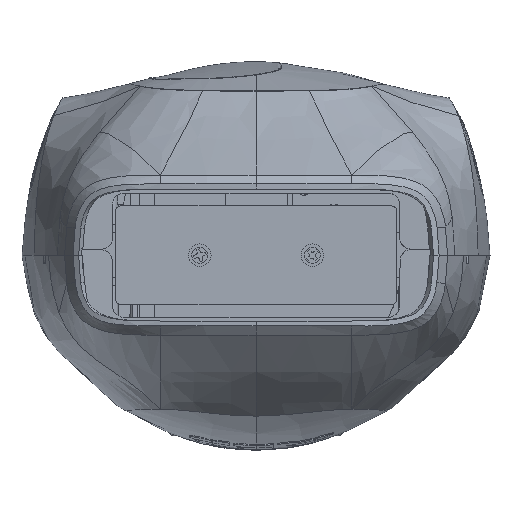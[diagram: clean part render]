
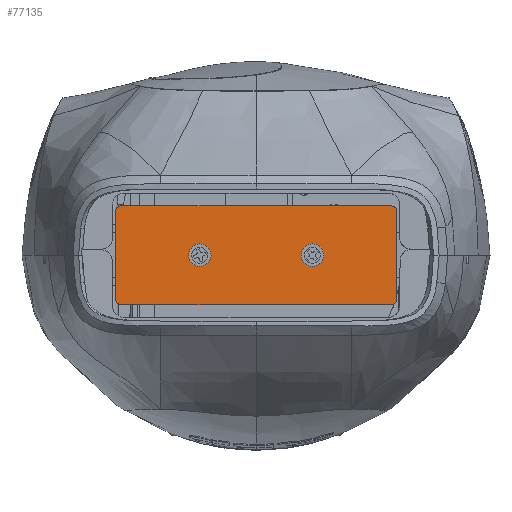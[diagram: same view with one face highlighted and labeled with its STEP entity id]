
A CAD part, top view. The second image highlights one B-rep face of the part: STEP entity #77135.
In plain terms, the highlighted planar face has unit normal (0, 0, 1).
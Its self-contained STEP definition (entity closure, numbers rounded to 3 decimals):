
#27 = CARTESIAN_POINT ( 'NONE',  ( 8.6, 0., 80.7 ) ) ;
#6572 = CARTESIAN_POINT ( 'NONE',  ( 24., 7.75, 80.7 ) ) ;
#6573 = DIRECTION ( 'NONE',  ( 0., 0., -1. ) ) ;
#6574 = DIRECTION ( 'NONE',  ( 1., 0., 0. ) ) ;
#8626 = CIRCLE ( 'NONE', #61493, 1. ) ;
#9874 = CIRCLE ( 'NONE', #61566, 1. ) ;
#9891 = LINE ( 'NONE', #13349, #9900 ) ;
#9900 = VECTOR ( 'NONE', #13351, 1000. ) ;
#10212 = CIRCLE ( 'NONE', #61592, 1.4 ) ;
#10911 = CIRCLE ( 'NONE', #61668, 1.4 ) ;
#13349 = CARTESIAN_POINT ( 'NONE',  ( -25., 8.75, 80.7 ) ) ;
#13351 = DIRECTION ( 'NONE',  ( 0., -1., 0. ) ) ;
#13354 = CARTESIAN_POINT ( 'NONE',  ( -24., -7.75, 80.7 ) ) ;
#13355 = DIRECTION ( 'NONE',  ( 0., 0., -1. ) ) ;
#13356 = DIRECTION ( 'NONE',  ( 1., 0., 0. ) ) ;
#13683 = CARTESIAN_POINT ( 'NONE',  ( -10., 0., 80.7 ) ) ;
#13685 = DIRECTION ( 'NONE',  ( 0., 0., -1. ) ) ;
#13686 = DIRECTION ( 'NONE',  ( 1., 0., 0. ) ) ;
#14163 = ORIENTED_EDGE ( 'NONE', *, *, #103868, .F. ) ;
#14165 = VERTEX_POINT ( 'NONE', #27 ) ;
#14186 = VERTEX_POINT ( 'NONE', #132474 ) ;
#14219 = VERTEX_POINT ( 'NONE', #132511 ) ;
#14319 = VERTEX_POINT ( 'NONE', #132705 ) ;
#14323 = ORIENTED_EDGE ( 'NONE', *, *, #102587, .F. ) ;
#14325 = ORIENTED_EDGE ( 'NONE', *, *, #103864, .T. ) ;
#14327 = ORIENTED_EDGE ( 'NONE', *, *, #103860, .F. ) ;
#14334 = ORIENTED_EDGE ( 'NONE', *, *, #103853, .T. ) ;
#14335 = ORIENTED_EDGE ( 'NONE', *, *, #103169, .T. ) ;
#14341 = ORIENTED_EDGE ( 'NONE', *, *, #103672, .T. ) ;
#14529 = VERTEX_POINT ( 'NONE', #46747 ) ;
#14539 = VERTEX_POINT ( 'NONE', #46770 ) ;
#14544 = VERTEX_POINT ( 'NONE', #46755 ) ;
#14673 = ORIENTED_EDGE ( 'NONE', *, *, #103861, .T. ) ;
#14680 = ORIENTED_EDGE ( 'NONE', *, *, #103319, .T. ) ;
#14681 = ORIENTED_EDGE ( 'NONE', *, *, #103859, .T. ) ;
#14730 = ORIENTED_EDGE ( 'NONE', *, *, #103857, .T. ) ;
#14807 = VERTEX_POINT ( 'NONE', #46888 ) ;
#14842 = VERTEX_POINT ( 'NONE', #46883 ) ;
#14907 = VERTEX_POINT ( 'NONE', #46912 ) ;
#14910 = VERTEX_POINT ( 'NONE', #46905 ) ;
#14964 = ORIENTED_EDGE ( 'NONE', *, *, #103171, .F. ) ;
#14984 = VERTEX_POINT ( 'NONE', #46943 ) ;
#25616 = CARTESIAN_POINT ( 'NONE',  ( 10., 0., 80.7 ) ) ;
#25617 = DIRECTION ( 'NONE',  ( 0., 0., -1. ) ) ;
#25618 = DIRECTION ( 'NONE',  ( 1., 0., 0. ) ) ;
#29020 = CARTESIAN_POINT ( 'NONE',  ( -10., 0., 80.7 ) ) ;
#29022 = DIRECTION ( 'NONE',  ( 0., 0., -1. ) ) ;
#29023 = DIRECTION ( 'NONE',  ( 1., 0., 0. ) ) ;
#29042 = CARTESIAN_POINT ( 'NONE',  ( 25., 8.75, 80.7 ) ) ;
#29045 = DIRECTION ( 'NONE',  ( 0., 1., 0. ) ) ;
#29047 = CARTESIAN_POINT ( 'NONE',  ( 10., 0., 80.7 ) ) ;
#29049 = DIRECTION ( 'NONE',  ( 0., 0., -1. ) ) ;
#29051 = DIRECTION ( 'NONE',  ( 1., 0., 0. ) ) ;
#29054 = CARTESIAN_POINT ( 'NONE',  ( 25., -8.75, 80.7 ) ) ;
#29057 = DIRECTION ( 'NONE',  ( 1., 0., 0. ) ) ;
#29065 = CARTESIAN_POINT ( 'NONE',  ( 24., -7.75, 80.7 ) ) ;
#29067 = DIRECTION ( 'NONE',  ( 0., 0., -1. ) ) ;
#29069 = DIRECTION ( 'NONE',  ( 1., 0., 0. ) ) ;
#29082 = CARTESIAN_POINT ( 'NONE',  ( 25., 8.75, 80.7 ) ) ;
#29085 = DIRECTION ( 'NONE',  ( -1., 0., 0. ) ) ;
#29108 = CARTESIAN_POINT ( 'NONE',  ( -24., 7.75, 80.7 ) ) ;
#29110 = DIRECTION ( 'NONE',  ( 0., 0., -1. ) ) ;
#29112 = DIRECTION ( 'NONE',  ( 1., 0., 0. ) ) ;
#29425 = CIRCLE ( 'NONE', #61706, 1.4 ) ;
#29433 = CIRCLE ( 'NONE', #61707, 1.4 ) ;
#29436 = LINE ( 'NONE', #29054, #29439 ) ;
#29438 = CIRCLE ( 'NONE', #61708, 1. ) ;
#29439 = VECTOR ( 'NONE', #29057, 1000. ) ;
#29440 = LINE ( 'NONE', #29042, #29442 ) ;
#29442 = VECTOR ( 'NONE', #29045, 1000. ) ;
#29445 = LINE ( 'NONE', #29082, #29448 ) ;
#29448 = VECTOR ( 'NONE', #29085, 1000. ) ;
#29453 = CIRCLE ( 'NONE', #61709, 1. ) ;
#35796 = EDGE_LOOP ( 'NONE', ( #14335, #14964, #14681, #14327, #14673, #14323, #14325, #14163 ) ) ;
#36446 = EDGE_LOOP ( 'NONE', ( #14341, #14730 ) ) ;
#36482 = EDGE_LOOP ( 'NONE', ( #14334, #14680 ) ) ;
#46747 = CARTESIAN_POINT ( 'NONE',  ( 25., 7.75, 80.7 ) ) ;
#46755 = CARTESIAN_POINT ( 'NONE',  ( -25., -7.75, 80.7 ) ) ;
#46770 = CARTESIAN_POINT ( 'NONE',  ( -8.6, 0., 80.7 ) ) ;
#46883 = CARTESIAN_POINT ( 'NONE',  ( -25., 7.75, 80.7 ) ) ;
#46888 = CARTESIAN_POINT ( 'NONE',  ( 24., -8.75, 80.7 ) ) ;
#46905 = CARTESIAN_POINT ( 'NONE',  ( -24., -8.75, 80.7 ) ) ;
#46912 = CARTESIAN_POINT ( 'NONE',  ( -24., 8.75, 80.7 ) ) ;
#46943 = CARTESIAN_POINT ( 'NONE',  ( 24., 8.75, 80.7 ) ) ;
#57437 = AXIS2_PLACEMENT_3D ( 'NONE', #83331, #83320, #83342 ) ;
#61493 = AXIS2_PLACEMENT_3D ( 'NONE', #6572, #6573, #6574 ) ;
#61566 = AXIS2_PLACEMENT_3D ( 'NONE', #13354, #13355, #13356 ) ;
#61592 = AXIS2_PLACEMENT_3D ( 'NONE', #13683, #13685, #13686 ) ;
#61668 = AXIS2_PLACEMENT_3D ( 'NONE', #25616, #25617, #25618 ) ;
#61706 = AXIS2_PLACEMENT_3D ( 'NONE', #29020, #29022, #29023 ) ;
#61707 = AXIS2_PLACEMENT_3D ( 'NONE', #29047, #29049, #29051 ) ;
#61708 = AXIS2_PLACEMENT_3D ( 'NONE', #29065, #29067, #29069 ) ;
#61709 = AXIS2_PLACEMENT_3D ( 'NONE', #29108, #29110, #29112 ) ;
#77135 = ADVANCED_FACE ( 'NONE', ( #92003, #92011, #91984 ), #83337, .F. ) ;
#83320 = DIRECTION ( 'NONE',  ( 0., 0., -1. ) ) ;
#83331 = CARTESIAN_POINT ( 'NONE',  ( -25., -8.75, 80.7 ) ) ;
#83337 = PLANE ( 'NONE',  #57437 ) ;
#83342 = DIRECTION ( 'NONE',  ( -1., 0., 0. ) ) ;
#91984 = FACE_OUTER_BOUND ( 'NONE', #35796, .T. ) ;
#92003 = FACE_BOUND ( 'NONE', #36446, .T. ) ;
#92011 = FACE_BOUND ( 'NONE', #36482, .T. ) ;
#102587 = EDGE_CURVE ( 'NONE', #14984, #14529, #8626, .T. ) ;
#103169 = EDGE_CURVE ( 'NONE', #14842, #14544, #9891, .T. ) ;
#103171 = EDGE_CURVE ( 'NONE', #14910, #14544, #9874, .T. ) ;
#103319 = EDGE_CURVE ( 'NONE', #14186, #14539, #10212, .T. ) ;
#103672 = EDGE_CURVE ( 'NONE', #14319, #14165, #10911, .T. ) ;
#103853 = EDGE_CURVE ( 'NONE', #14539, #14186, #29425, .T. ) ;
#103857 = EDGE_CURVE ( 'NONE', #14165, #14319, #29433, .T. ) ;
#103859 = EDGE_CURVE ( 'NONE', #14910, #14807, #29436, .T. ) ;
#103860 = EDGE_CURVE ( 'NONE', #14219, #14807, #29438, .T. ) ;
#103861 = EDGE_CURVE ( 'NONE', #14219, #14529, #29440, .T. ) ;
#103864 = EDGE_CURVE ( 'NONE', #14984, #14907, #29445, .T. ) ;
#103868 = EDGE_CURVE ( 'NONE', #14842, #14907, #29453, .T. ) ;
#132474 = CARTESIAN_POINT ( 'NONE',  ( -11.4, 0., 80.7 ) ) ;
#132511 = CARTESIAN_POINT ( 'NONE',  ( 25., -7.75, 80.7 ) ) ;
#132705 = CARTESIAN_POINT ( 'NONE',  ( 11.4, 0., 80.7 ) ) ;
